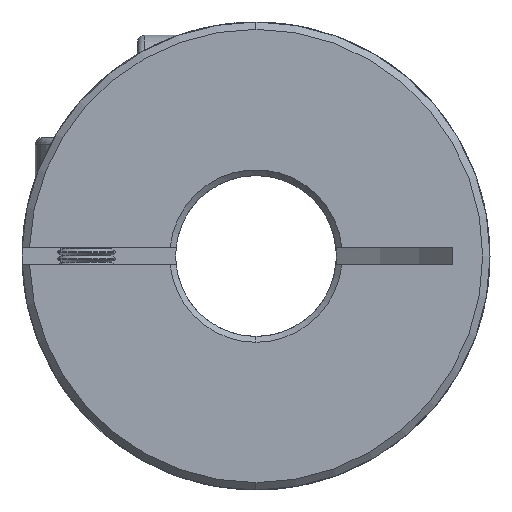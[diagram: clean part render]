
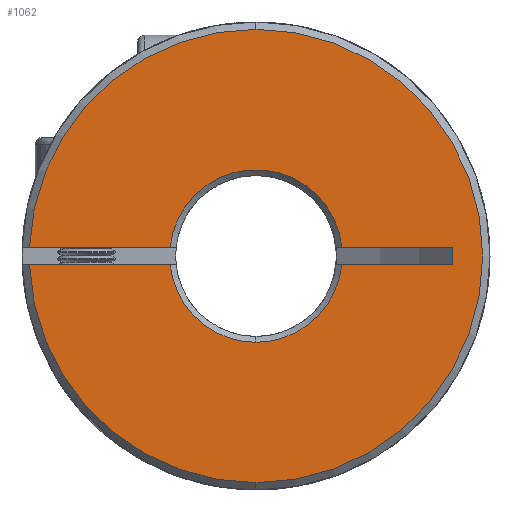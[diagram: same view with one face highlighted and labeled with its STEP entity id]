
A CAD part, front view. The second image highlights one B-rep face of the part: STEP entity #1062.
In plain terms, the highlighted planar face has unit normal (0, -1, 0).
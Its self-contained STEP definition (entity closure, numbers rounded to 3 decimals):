
#67 = EDGE_CURVE ( 'NONE', #8663, #5224, #8606, .T. ) ;
#165 = VERTEX_POINT ( 'NONE', #10872 ) ;
#321 = DIRECTION ( 'NONE',  ( 0., 1., 0. ) ) ;
#366 = CIRCLE ( 'NONE', #4131, 15.5 ) ;
#371 = ORIENTED_EDGE ( 'NONE', *, *, #10238, .F. ) ;
#639 = EDGE_CURVE ( 'NONE', #2588, #5512, #8212, .T. ) ;
#929 = ORIENTED_EDGE ( 'NONE', *, *, #1700, .T. ) ;
#1062 = ADVANCED_FACE ( 'NONE', ( #6567 ), #10192, .F. ) ;
#1094 = CARTESIAN_POINT ( 'NONE',  ( -50., 0., 0.6 ) ) ;
#1192 = AXIS2_PLACEMENT_3D ( 'NONE', #7894, #8750, #3575 ) ;
#1508 = DIRECTION ( 'NONE',  ( 1., 0., 0. ) ) ;
#1583 = DIRECTION ( 'NONE',  ( 0., 1., 0. ) ) ;
#1683 = CARTESIAN_POINT ( 'NONE',  ( -50., 0., -0.6 ) ) ;
#1700 = EDGE_CURVE ( 'NONE', #5797, #8663, #3324, .T. ) ;
#1975 = ORIENTED_EDGE ( 'NONE', *, *, #9546, .T. ) ;
#2088 = AXIS2_PLACEMENT_3D ( 'NONE', #3725, #321, #5401 ) ;
#2128 = DIRECTION ( 'NONE',  ( 0., 0., 1. ) ) ;
#2145 = VERTEX_POINT ( 'NONE', #7907 ) ;
#2306 = EDGE_CURVE ( 'NONE', #3707, #2145, #366, .T. ) ;
#2317 = EDGE_CURVE ( 'NONE', #9653, #2588, #7630, .T. ) ;
#2501 = AXIS2_PLACEMENT_3D ( 'NONE', #3242, #3991, #9297 ) ;
#2579 = AXIS2_PLACEMENT_3D ( 'NONE', #6732, #1583, #5054 ) ;
#2588 = VERTEX_POINT ( 'NONE', #7982 ) ;
#2648 = VECTOR ( 'NONE', #9743, 1000. ) ;
#2899 = CARTESIAN_POINT ( 'NONE',  ( 5.869, 0., -0.6 ) ) ;
#2978 = CIRCLE ( 'NONE', #10396, 15.5 ) ;
#3242 = CARTESIAN_POINT ( 'NONE',  ( 0., 0., 0. ) ) ;
#3324 = CIRCLE ( 'NONE', #2088, 5.9 ) ;
#3575 = DIRECTION ( 'NONE',  ( 0., 0., 1. ) ) ;
#3659 = CIRCLE ( 'NONE', #1192, 15.5 ) ;
#3707 = VERTEX_POINT ( 'NONE', #10717 ) ;
#3725 = CARTESIAN_POINT ( 'NONE',  ( 0., 0., 0. ) ) ;
#3807 = DIRECTION ( 'NONE',  ( 0., 0., 1. ) ) ;
#3991 = DIRECTION ( 'NONE',  ( 0., 1., 0. ) ) ;
#4002 = EDGE_CURVE ( 'NONE', #8053, #165, #10720, .T. ) ;
#4063 = CARTESIAN_POINT ( 'NONE',  ( 0., 0., 0. ) ) ;
#4131 = AXIS2_PLACEMENT_3D ( 'NONE', #8322, #9085, #2128 ) ;
#4184 = CARTESIAN_POINT ( 'NONE',  ( -15.488, 0., 0.6 ) ) ;
#4245 = CARTESIAN_POINT ( 'NONE',  ( -15.488, 0., -0.6 ) ) ;
#4526 = LINE ( 'NONE', #6155, #8560 ) ;
#4923 = VECTOR ( 'NONE', #6841, 1000. ) ;
#5054 = DIRECTION ( 'NONE',  ( 0., 0., 1. ) ) ;
#5224 = VERTEX_POINT ( 'NONE', #6894 ) ;
#5401 = DIRECTION ( 'NONE',  ( 0., 0., 1. ) ) ;
#5512 = VERTEX_POINT ( 'NONE', #6687 ) ;
#5603 = ORIENTED_EDGE ( 'NONE', *, *, #11020, .F. ) ;
#5797 = VERTEX_POINT ( 'NONE', #2899 ) ;
#6155 = CARTESIAN_POINT ( 'NONE',  ( -50., 0., -0.6 ) ) ;
#6180 = EDGE_CURVE ( 'NONE', #8699, #3707, #3659, .T. ) ;
#6296 = ORIENTED_EDGE ( 'NONE', *, *, #639, .T. ) ;
#6468 = EDGE_CURVE ( 'NONE', #2145, #9653, #2978, .T. ) ;
#6567 = FACE_OUTER_BOUND ( 'NONE', #7312, .T. ) ;
#6653 = VECTOR ( 'NONE', #7007, 1000. ) ;
#6687 = CARTESIAN_POINT ( 'NONE',  ( 5.869, 0., 0.6 ) ) ;
#6732 = CARTESIAN_POINT ( 'NONE',  ( -50., 0., -18.413 ) ) ;
#6841 = DIRECTION ( 'NONE',  ( 1., 0., 0. ) ) ;
#6894 = CARTESIAN_POINT ( 'NONE',  ( -5.869, 0., -0.6 ) ) ;
#6958 = LINE ( 'NONE', #1683, #4923 ) ;
#7007 = DIRECTION ( 'NONE',  ( 0., 0., -1. ) ) ;
#7284 = CARTESIAN_POINT ( 'NONE',  ( 0., 0., 0. ) ) ;
#7287 = DIRECTION ( 'NONE',  ( 1., 0., 0. ) ) ;
#7312 = EDGE_LOOP ( 'NONE', ( #5603, #10281, #10840, #10270, #10711, #6296, #1975, #7483, #371, #929, #8978 ) ) ;
#7483 = ORIENTED_EDGE ( 'NONE', *, *, #4002, .T. ) ;
#7630 = LINE ( 'NONE', #10318, #9263 ) ;
#7894 = CARTESIAN_POINT ( 'NONE',  ( 0., 0., 0. ) ) ;
#7907 = CARTESIAN_POINT ( 'NONE',  ( 0., 0., 15.5 ) ) ;
#7982 = CARTESIAN_POINT ( 'NONE',  ( -5.869, 0., 0.6 ) ) ;
#8053 = VERTEX_POINT ( 'NONE', #10703 ) ;
#8200 = DIRECTION ( 'NONE',  ( 0., 1., 0. ) ) ;
#8212 = CIRCLE ( 'NONE', #2501, 5.9 ) ;
#8322 = CARTESIAN_POINT ( 'NONE',  ( 0., 0., 0. ) ) ;
#8465 = CARTESIAN_POINT ( 'NONE',  ( 0., 0., -5.9 ) ) ;
#8560 = VECTOR ( 'NONE', #7287, 1000. ) ;
#8606 = CIRCLE ( 'NONE', #9242, 5.9 ) ;
#8656 = CARTESIAN_POINT ( 'NONE',  ( 13.436, 0., -0.6 ) ) ;
#8663 = VERTEX_POINT ( 'NONE', #8465 ) ;
#8699 = VERTEX_POINT ( 'NONE', #4245 ) ;
#8750 = DIRECTION ( 'NONE',  ( 0., -1., 0. ) ) ;
#8978 = ORIENTED_EDGE ( 'NONE', *, *, #67, .T. ) ;
#9085 = DIRECTION ( 'NONE',  ( 0., -1., 0. ) ) ;
#9242 = AXIS2_PLACEMENT_3D ( 'NONE', #7284, #8200, #3807 ) ;
#9263 = VECTOR ( 'NONE', #1508, 1000. ) ;
#9297 = DIRECTION ( 'NONE',  ( 0., 0., 1. ) ) ;
#9367 = DIRECTION ( 'NONE',  ( 0., 0., 1. ) ) ;
#9546 = EDGE_CURVE ( 'NONE', #5512, #8053, #9819, .T. ) ;
#9653 = VERTEX_POINT ( 'NONE', #4184 ) ;
#9743 = DIRECTION ( 'NONE',  ( 1., 0., 0. ) ) ;
#9819 = LINE ( 'NONE', #1094, #2648 ) ;
#10122 = DIRECTION ( 'NONE',  ( 0., -1., 0. ) ) ;
#10192 = PLANE ( 'NONE',  #2579 ) ;
#10238 = EDGE_CURVE ( 'NONE', #5797, #165, #6958, .T. ) ;
#10270 = ORIENTED_EDGE ( 'NONE', *, *, #6468, .T. ) ;
#10281 = ORIENTED_EDGE ( 'NONE', *, *, #6180, .T. ) ;
#10318 = CARTESIAN_POINT ( 'NONE',  ( -50., 0., 0.6 ) ) ;
#10396 = AXIS2_PLACEMENT_3D ( 'NONE', #4063, #10122, #9367 ) ;
#10703 = CARTESIAN_POINT ( 'NONE',  ( 13.436, 0., 0.6 ) ) ;
#10711 = ORIENTED_EDGE ( 'NONE', *, *, #2317, .T. ) ;
#10717 = CARTESIAN_POINT ( 'NONE',  ( 0., 0., -15.5 ) ) ;
#10720 = LINE ( 'NONE', #8656, #6653 ) ;
#10840 = ORIENTED_EDGE ( 'NONE', *, *, #2306, .T. ) ;
#10872 = CARTESIAN_POINT ( 'NONE',  ( 13.436, 0., -0.6 ) ) ;
#11020 = EDGE_CURVE ( 'NONE', #8699, #5224, #4526, .T. ) ;
